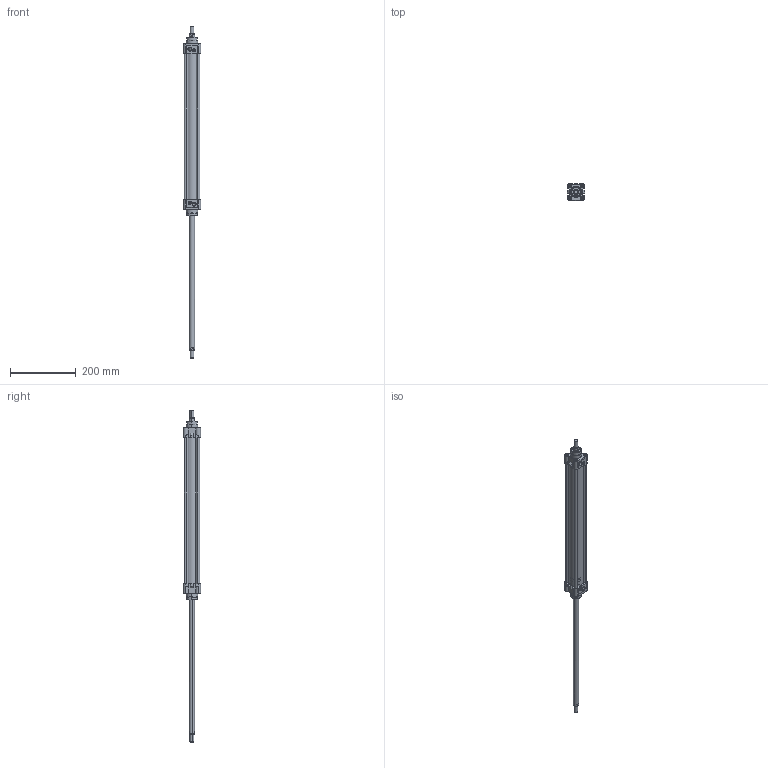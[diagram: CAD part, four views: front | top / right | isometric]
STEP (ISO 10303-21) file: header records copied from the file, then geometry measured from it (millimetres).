
FILE_DESCRIPTION (( 'STEP AP203' ), '1' );
FILE_NAME ('MDNC40X400CIFTMILLI-CYLINDER.STEP', '2016-04-01T11:43:42', ( 'user' ), ( '' ), 'SwSTEP 2.0', 'SolidWorks 2013', '' );
FILE_SCHEMA (( 'CONFIG_CONTROL_DESIGN' ));
Length unit declared in the file: millimetre
Products named in the file (6): MDNC40X400CIFTMILLI-CYLINDER; 烰 KAPAK  40; MDNC 40X400 BORU; ORTA PÝSTON 40 Çift Milli; PÝSTON MÝLÝ 40X400; Saplama Mili 40X400 STROK
Assembly tree (6 placements, depth 2):
  MDNC40X400CIFTMILLI-CYLINDER
    烰 KAPAK  40  x2
    MDNC 40X400 BORU
    ORTA PÝSTON 40 Çift Milli
    PÝSTON MÝLÝ 40X400
    Saplama Mili 40X400 STROK
Bounding box: 53 x 53.3 x 1013.1 mm (x, y, z)
Volume: 608115.6 mm3; surface area: 291273 mm2
Topology: 8 solids, 8 shells, 689 faces, 1681 edges, 1056 vertices
Faces by surface type: cylinder 321, plane 188, cone 112, bspline 54, torus 14
Entity records: 16336 total; most frequent: CARTESIAN_POINT 5359, ORIENTED_EDGE 2182, DIRECTION 2135, EDGE_CURVE 1091, AXIS2_PLACEMENT_3D 849, VERTEX_POINT 690, EDGE_LOOP 519, FACE_OUTER_BOUND 451
